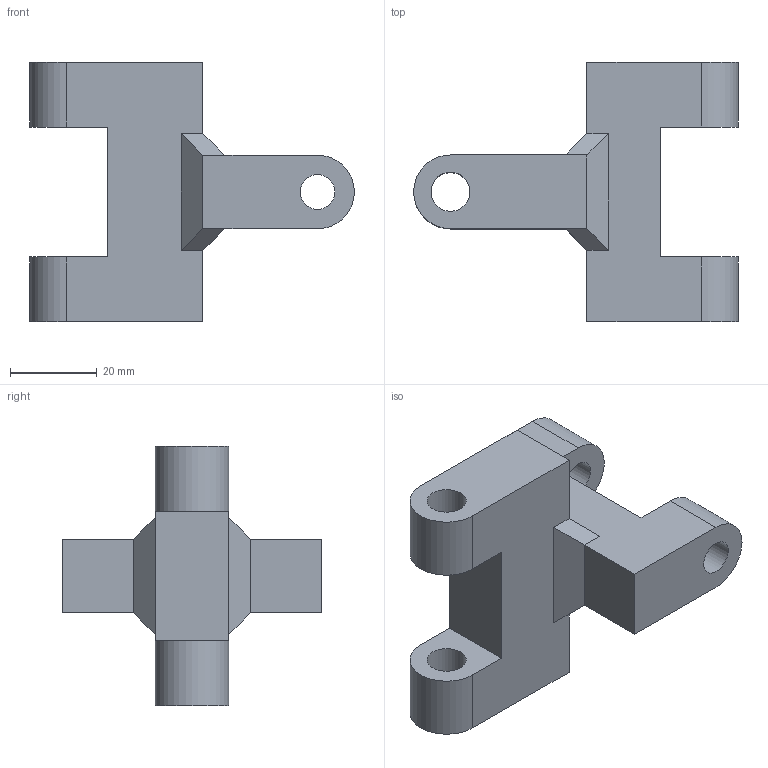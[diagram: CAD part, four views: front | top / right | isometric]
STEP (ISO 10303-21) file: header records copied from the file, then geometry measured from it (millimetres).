
FILE_DESCRIPTION(/* description */ (''),/* implementation_level */ '2;1');
FILE_NAME(/* name */ 'E:/3D Design/3D Prints/Tablet Wall Mount/STEP Files/Tab Holder.stp',/* time_stamp */ '2017-09-21T22:04:10-05:00',/* author */ (''),/* organization */ (''),/* preprocessor_version */ 'ST-DEVELOPER v16.13',/* originating_system */ 'Autodesk Translation Framework v6.1.1.50',/* authorisation */ '');
FILE_SCHEMA (('AUTOMOTIVE_DESIGN { 1 0 10303 214 3 1 1 }'));
Length unit declared in the file: millimetre
Products named in the file (1): Tab Holder
Bounding box: 75 x 60 x 60 mm (x, y, z)
Volume: 54046.3 mm3; surface area: 14460.5 mm2
Topology: 1 solids, 1 shells, 34 faces, 88 edges, 56 vertices
Faces by surface type: plane 26, cylinder 8
Full cylindrical faces by diameter (mm): 8 x2, 9 x2
Entity records: 1042 total; most frequent: CARTESIAN_POINT 175, DIRECTION 170, ORIENTED_EDGE 168, EDGE_CURVE 84, LINE 68, VECTOR 68, VERTEX_POINT 56, AXIS2_PLACEMENT_3D 51
